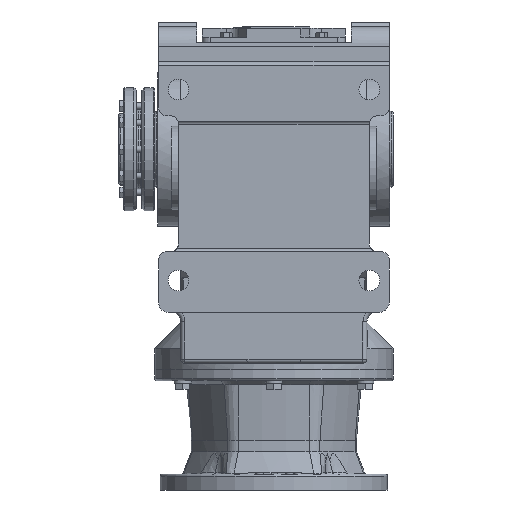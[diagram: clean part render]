
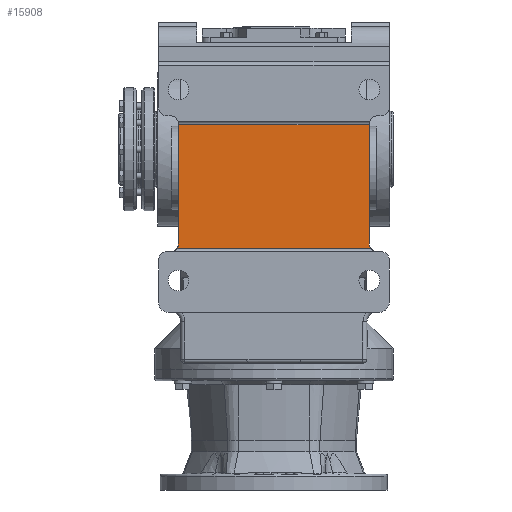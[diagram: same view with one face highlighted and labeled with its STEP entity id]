
A CAD part, front view. The second image highlights one B-rep face of the part: STEP entity #15908.
In plain terms, the highlighted planar face has unit normal (0, -1, 0).
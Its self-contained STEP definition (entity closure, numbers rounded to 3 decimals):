
#2410 = VERTEX_POINT ( 'NONE', #29632 ) ;
#2808 = VERTEX_POINT ( 'NONE', #29837 ) ;
#5340 = CARTESIAN_POINT ( 'NONE',  ( -120., -260., 31. ) ) ;
#13985 = VERTEX_POINT ( 'NONE', #30092 ) ;
#15908 = ADVANCED_FACE ( 'NONE', ( #47406 ), #21467, .T. ) ;
#17494 = CARTESIAN_POINT ( 'NONE',  ( 120., -260., 31. ) ) ;
#21462 = CARTESIAN_POINT ( 'NONE',  ( -145., -260., 31. ) ) ;
#21467 = PLANE ( 'NONE',  #43359 ) ;
#21470 = DIRECTION ( 'NONE',  ( 0., -1., 0. ) ) ;
#21471 = DIRECTION ( 'NONE',  ( 0., 0., -1. ) ) ;
#24310 = VERTEX_POINT ( 'NONE', #17494 ) ;
#24679 = EDGE_CURVE ( 'NONE', #2410, #13985, #51525, .T. ) ;
#24752 = EDGE_CURVE ( 'NONE', #60249, #24310, #51794, .T. ) ;
#24753 = EDGE_CURVE ( 'NONE', #2808, #60249, #51764, .T. ) ;
#24754 = EDGE_CURVE ( 'NONE', #2808, #2410, #51800, .T. ) ;
#24755 = EDGE_CURVE ( 'NONE', #13985, #62150, #51802, .T. ) ;
#24756 = EDGE_CURVE ( 'NONE', #24310, #62150, #51804, .T. ) ;
#29578 = CARTESIAN_POINT ( 'NONE',  ( 120., -260., -119. ) ) ;
#29632 = CARTESIAN_POINT ( 'NONE',  ( -122., -260., -125. ) ) ;
#29837 = CARTESIAN_POINT ( 'NONE',  ( -120., -260., -119. ) ) ;
#30092 = CARTESIAN_POINT ( 'NONE',  ( 122., -260., -125. ) ) ;
#30439 = CARTESIAN_POINT ( 'NONE',  ( -145., -260., 31. ) ) ;
#30442 = DIRECTION ( 'NONE',  ( 1., 0., 0. ) ) ;
#30451 = CARTESIAN_POINT ( 'NONE',  ( -120., -260., -125. ) ) ;
#30458 = DIRECTION ( 'NONE',  ( 0., 0., 1. ) ) ;
#30463 = CARTESIAN_POINT ( 'NONE',  ( 120., -260., 31. ) ) ;
#30466 = DIRECTION ( 'NONE',  ( 0., 0., -1. ) ) ;
#30468 = CARTESIAN_POINT ( 'NONE',  ( -130., -260., -119. ) ) ;
#30470 = DIRECTION ( 'NONE',  ( 0., 1., 0. ) ) ;
#30472 = DIRECTION ( 'NONE',  ( 0., 0., -1. ) ) ;
#30477 = CARTESIAN_POINT ( 'NONE',  ( 130., -260., -119. ) ) ;
#30479 = DIRECTION ( 'NONE',  ( 0., 1., 0. ) ) ;
#30481 = DIRECTION ( 'NONE',  ( 0., 0., -1. ) ) ;
#41447 = CARTESIAN_POINT ( 'NONE',  ( -145., -260., -125. ) ) ;
#41449 = DIRECTION ( 'NONE',  ( 1., 0., 0. ) ) ;
#43359 = AXIS2_PLACEMENT_3D ( 'NONE', #21462, #21470, #21471 ) ;
#46908 = ORIENTED_EDGE ( 'NONE', *, *, #24752, .F. ) ;
#46909 = ORIENTED_EDGE ( 'NONE', *, *, #24753, .F. ) ;
#46910 = ORIENTED_EDGE ( 'NONE', *, *, #24754, .T. ) ;
#46911 = ORIENTED_EDGE ( 'NONE', *, *, #24679, .T. ) ;
#46912 = ORIENTED_EDGE ( 'NONE', *, *, #24755, .T. ) ;
#46913 = ORIENTED_EDGE ( 'NONE', *, *, #24756, .F. ) ;
#47406 = FACE_OUTER_BOUND ( 'NONE', #51274, .T. ) ;
#51274 = EDGE_LOOP ( 'NONE', ( #46908, #46909, #46910, #46911, #46912, #46913 ) ) ;
#51519 = VECTOR ( 'NONE', #41449, 1000. ) ;
#51525 = LINE ( 'NONE', #41447, #51519 ) ;
#51764 = LINE ( 'NONE', #30451, #51801 ) ;
#51794 = LINE ( 'NONE', #30439, #51798 ) ;
#51798 = VECTOR ( 'NONE', #30442, 1000. ) ;
#51800 = CIRCLE ( 'NONE', #63762, 10. ) ;
#51801 = VECTOR ( 'NONE', #30458, 1000. ) ;
#51802 = CIRCLE ( 'NONE', #63763, 10. ) ;
#51804 = LINE ( 'NONE', #30463, #51807 ) ;
#51807 = VECTOR ( 'NONE', #30466, 1000. ) ;
#60249 = VERTEX_POINT ( 'NONE', #5340 ) ;
#62150 = VERTEX_POINT ( 'NONE', #29578 ) ;
#63762 = AXIS2_PLACEMENT_3D ( 'NONE', #30468, #30470, #30472 ) ;
#63763 = AXIS2_PLACEMENT_3D ( 'NONE', #30477, #30479, #30481 ) ;
